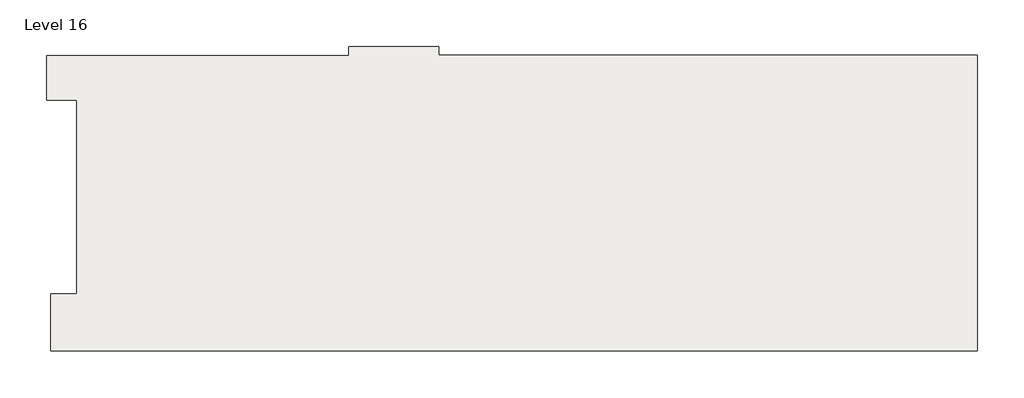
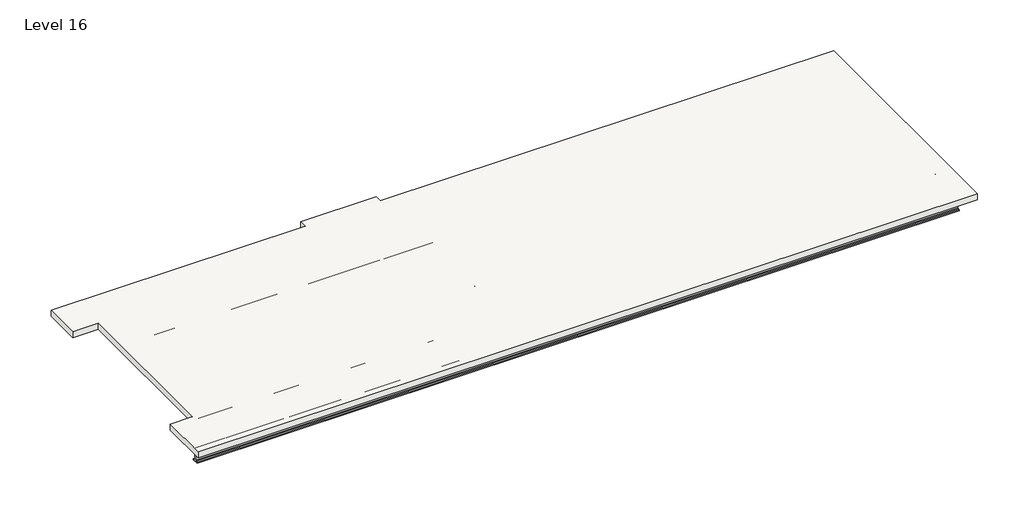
# One storey: 7 beams, 1 slab.
"""IFC4 building model written with IfcOpenShell, lengths in millimetres."""

import ifcopenshell
import ifcopenshell.guid

model = None  # the IFC model being written
_history = None  # IfcOwnerHistory: only IFC2X3 demands one
_inside = {}  # id of a spatial element -> (the spatial element, [elements in it])
_under = {}  # id of a project, library or spatial element -> (it, [spatial elements below it])
_declared = {}  # id of a project -> (the project, [libraries it declares])
_typed = {}  # id of a type object -> (the type object, [elements of that type])
_made_of = {}  # id of a material, layer set ... -> (it, [elements and type objects made of it])


def new_model(schema):
    """Start an empty IFC model of exactly this schema.

    Asked for "IFC4X3", IfcOpenShell would pick the latest addendum, in which some entities
    have other attributes; the version numbers below select the first issue.
    IFC2X3 requires an IfcOwnerHistory on every rooted entity: one is made here for all.
    """
    global model, _history
    if schema == "IFC4X3":
        model = ifcopenshell.file(schema_version=(4, 3, 0, 0))
    else:
        model = ifcopenshell.file(schema=schema)
    _inside.clear()
    _under.clear()
    _declared.clear()
    _typed.clear()
    _made_of.clear()
    _history = None
    if model.schema == "IFC2X3":
        org = make("IfcOrganization", Name="unknown")
        user = make(
            "IfcPersonAndOrganization",
            ThePerson=make("IfcPerson", FamilyName="unknown"),
            TheOrganization=org,
        )
        app = make(
            "IfcApplication",
            ApplicationDeveloper=org,
            Version="unknown",
            ApplicationFullName="unknown",
            ApplicationIdentifier="unknown",
        )
        _history = make(
            "IfcOwnerHistory",
            OwningUser=user,
            OwningApplication=app,
            ChangeAction="ADDED",
            CreationDate=0,
        )
    return model


def make(cls, **values):
    """One entity of the class cls with the attributes given. An attribute that is None is left unset."""
    return model.create_entity(
        cls, **{name: value for name, value in values.items() if value is not None}
    )


def rooted(cls, **values):
    """An entity with a GlobalId (a new one), such as an element, a storey or a relation."""
    return make(cls, GlobalId=ifcopenshell.guid.new(), OwnerHistory=_history, **values)


def si_unit(unit_type, name, prefix=None):
    """IfcSIUnit, for example si_unit("LENGTHUNIT", "METRE", prefix="MILLI")."""
    return make("IfcSIUnit", UnitType=unit_type, Prefix=prefix, Name=name)


def assignment(units):
    """IfcUnitAssignment: the units of a project."""
    return None if units is None else make("IfcUnitAssignment", Units=units)


def point(xyz):
    """IfcCartesianPoint."""
    return None if xyz is None else make("IfcCartesianPoint", Coordinates=xyz)


def direction(xyz):
    """IfcDirection."""
    return None if xyz is None else make("IfcDirection", DirectionRatios=xyz)


def frame(location, z_axis=None, x_axis=None):
    """IfcAxis2Placement3D, a coordinate frame: its origin and axes. An axis left out is left unset."""
    return make(
        "IfcAxis2Placement3D",
        Location=point(location),
        Axis=direction(z_axis),
        RefDirection=direction(x_axis),
    )


def frame_2d(location, x_axis=None):
    """IfcAxis2Placement2D, a coordinate frame in the plane: its origin and x axis."""
    return make(
        "IfcAxis2Placement2D", Location=point(location), RefDirection=direction(x_axis)
    )


def origin():
    """The frame at (0, 0, 0) with its axes left unset."""
    return frame((0.0, 0.0, 0.0))


def place(relative_to, where):
    """IfcLocalPlacement: puts the frame where relative to a parent placement (None: the world)."""
    return make(
        "IfcLocalPlacement", PlacementRelTo=relative_to, RelativePlacement=where
    )


def context(
    kind, dimensions, precision=None, world=None, true_north=None, identifier=None
):
    """IfcGeometricRepresentationContext, for example the 3D "Model" context."""
    return make(
        "IfcGeometricRepresentationContext",
        ContextIdentifier=identifier,
        ContextType=kind,
        CoordinateSpaceDimension=dimensions,
        Precision=precision,
        WorldCoordinateSystem=world,
        TrueNorth=true_north,
    )


def project(units=None, contexts=None):
    """IfcProject with its units and contexts."""
    return rooted(
        "IfcProject",
        Name="project",
        RepresentationContexts=contexts,
        UnitsInContext=assignment(units),
    )


def spatial(cls, under=None, at=None, **own):
    """A site, building, storey or space (cls), placed at a placement, below another one or the project."""
    s = rooted(cls, ObjectPlacement=at, **own)
    if under is not None:
        _under.setdefault(under.id(), (under, []))[1].append(s)
    return s


def polyline(points):
    """IfcPolyline through the points."""
    return make("IfcPolyline", Points=[point(p) for p in points])


def circle_curve(where, radius):
    """IfcCircle in the frame where."""
    return make("IfcCircle", Position=where, Radius=radius)


def trimmed(basis, trim1, trim2, sense, master):
    """IfcTrimmedCurve: the piece of a basis curve between two trims."""
    return make(
        "IfcTrimmedCurve",
        BasisCurve=basis,
        Trim1=trim1,
        Trim2=trim2,
        SenseAgreement=sense,
        MasterRepresentation=master,
    )


def segment(curve, same_sense, transition):
    """IfcCompositeCurveSegment."""
    return make(
        "IfcCompositeCurveSegment",
        Transition=transition,
        SameSense=same_sense,
        ParentCurve=curve,
    )


def composite_curve(segments, self_intersect=None):
    """IfcCompositeCurve: segments joined end to end."""
    return make("IfcCompositeCurve", Segments=segments, SelfIntersect=self_intersect)


def outline(outer, holes=None, kind="AREA"):
    """IfcArbitraryClosedProfileDef: a profile drawn as a closed curve; with holes, ...WithVoids."""
    if holes is None:
        return make("IfcArbitraryClosedProfileDef", ProfileType=kind, OuterCurve=outer)
    return make(
        "IfcArbitraryProfileDefWithVoids",
        ProfileType=kind,
        OuterCurve=outer,
        InnerCurves=holes,
    )


def extrude(swept, where, along, depth):
    """IfcExtrudedAreaSolid: the profile swept, set in the frame where, extruded along a direction by depth."""
    return make(
        "IfcExtrudedAreaSolid",
        SweptArea=swept,
        Position=where,
        ExtrudedDirection=direction(along),
        Depth=depth,
    )


def shape(context_of_items, identifier, shape_type, items):
    """IfcShapeRepresentation: the items that make up one representation, for example the "Body"."""
    return make(
        "IfcShapeRepresentation",
        ContextOfItems=context_of_items,
        RepresentationIdentifier=identifier,
        RepresentationType=shape_type,
        Items=items,
    )


def source(mapping_origin, context_of_items, identifier, shape_type, items):
    """IfcRepresentationMap: a shape defined once, which mapped items show again and again."""
    return make(
        "IfcRepresentationMap",
        MappingOrigin=mapping_origin,
        MappedRepresentation=shape(context_of_items, identifier, shape_type, items),
    )


def transform(
    local_origin,
    x_axis=None,
    y_axis=None,
    z_axis=None,
    scale=None,
    scale2=None,
    scale3=None,
    uniform=True,
):
    """IfcCartesianTransformationOperator3D, or its non-uniform kind. x_axis, y_axis, z_axis: its Axis1, 2, 3."""
    if uniform:
        return make(
            "IfcCartesianTransformationOperator3D",
            Axis1=direction(x_axis),
            Axis2=direction(y_axis),
            LocalOrigin=point(local_origin),
            Scale=scale,
            Axis3=direction(z_axis),
        )
    return make(
        "IfcCartesianTransformationOperator3DnonUniform",
        Axis1=direction(x_axis),
        Axis2=direction(y_axis),
        LocalOrigin=point(local_origin),
        Scale=scale,
        Axis3=direction(z_axis),
        Scale2=scale2,
        Scale3=scale3,
    )


def mapped(mapping_source, mapping_target):
    """IfcMappedItem: shows the shape of a source again, moved by a transform."""
    return make(
        "IfcMappedItem", MappingSource=mapping_source, MappingTarget=mapping_target
    )


def made_of(thing, what):
    """Note that an element or type object is made of a material, layer set ...; save() writes the relation."""
    if what is not None:
        _made_of.setdefault(what.id(), (what, []))[1].append(thing)
    return thing


def element(
    cls,
    number,
    at=None,
    inside=None,
    cuts=None,
    type_object=None,
    material=None,
    context=None,
    identifier="Body",
    shape_type=None,
    held_by="IfcProductDefinitionShape",
    body=None,
    shapes=None,
    **own,
):
    """One element of the class cls, such as IfcWall. Its Tag is "e" and its number.

    at: its placement. inside: the storey or other place that contains it. cuts: it is an
    opening in that element (IfcRelVoidsElement). A single representation is given by context,
    identifier, shape_type and body (its items); several are given by shapes. held_by: the class
    of the entity that holds the representations. save() writes the other relations.
    """
    e = rooted(cls, Tag="e%d" % number, ObjectPlacement=at, **own)
    if body is not None:
        shapes = [shape(context, identifier, shape_type, body)]
    if shapes is not None:
        e.Representation = make(held_by, Representations=shapes)
    if inside is not None:
        _inside.setdefault(inside.id(), (inside, []))[1].append(e)
    if cuts is not None:
        rooted(
            "IfcRelVoidsElement", RelatingBuildingElement=cuts, RelatedOpeningElement=e
        )
    if type_object is not None:
        _typed.setdefault(type_object.id(), (type_object, []))[1].append(e)
    return made_of(e, material)


def aggregate(whole, parts):
    """IfcRelAggregates: a whole, such as a stair, and the parts it consists of."""
    return rooted("IfcRelAggregates", RelatingObject=whole, RelatedObjects=parts)


def save(model, path):
    """Write the relations noted so far, then the file.

    IfcRelAggregates (storeys below a building ...), IfcRelContainedInSpatialStructure (elements
    in a storey), IfcRelDefinesByType, IfcRelAssociatesMaterial and IfcRelDeclares: one each for
    every whole, place, type object, material and project.
    """
    for whole, parts in _under.values():
        aggregate(whole, parts)
    for where, things in _inside.values():
        rooted(
            "IfcRelContainedInSpatialStructure",
            RelatedElements=things,
            RelatingStructure=where,
        )
    for kind, things in _typed.values():
        rooted("IfcRelDefinesByType", RelatedObjects=things, RelatingType=kind)
    for what, things in _made_of.values():
        rooted("IfcRelAssociatesMaterial", RelatedObjects=things, RelatingMaterial=what)
    for by, libraries in _declared.values():
        rooted("IfcRelDeclares", RelatingContext=by, RelatedDefinitions=libraries)
    model.write(path)


def ub_universal_beam_t_form_beam_cafdf109(model_context):
    return source(origin(), model_context, "Body", "SweptSolid", [
        extrude(outline(composite_curve([segment(polyline([(101.6, -190.5), (101.6, -241.3), (-101.6, -241.3), (-101.6, -190.5), (-63.5, -190.5)]), True, "CONTINUOUS"), segment(trimmed(circle_curve(frame_2d((-63.5, -165.1)), 25.4), [point((-63.5, -190.5))], [point((-38.1, -165.1))], True, "CARTESIAN"), True, "CONTINUOUS"), segment(polyline([(-38.1, -165.1), (-38.1, 165.1)]), True, "CONTINUOUS"), segment(trimmed(circle_curve(frame_2d((-63.5, 165.1)), 25.4), [point((-38.1, 165.1))], [point((-63.5, 190.5))], True, "CARTESIAN"), True, "CONTINUOUS"), segment(polyline([(-63.5, 190.5), (-101.6, 190.5), (-101.6, 241.3), (101.6, 241.3), (101.6, 190.5), (63.5, 190.5)]), True, "CONTINUOUS"), segment(trimmed(circle_curve(frame_2d((63.5, 165.1)), 25.4), [point((63.5, 190.5))], [point((38.1, 165.1))], True, "CARTESIAN"), True, "CONTINUOUS"), segment(polyline([(38.1, 165.1), (38.1, -165.1)]), True, "CONTINUOUS"), segment(trimmed(circle_curve(frame_2d((63.5, -165.1)), 25.4), [point((38.1, -165.1))], [point((63.5, -190.5))], True, "CARTESIAN"), True, "CONTINUOUS"), segment(polyline([(63.5, -190.5), (101.6, -190.5)]), True, "CONTINUOUS")], self_intersect=False)), frame((-17519.7697067, 0.0, 0.0), z_axis=(1.0, 0.0, 0.0), x_axis=(0.0, 1.0, 0.0)), (0.0, 0.0, 1.0), 35039.5394134),
    ])


def ub_universal_beam_t_form_beam_0052a870(model_context):
    return source(origin(), model_context, "Body", "SweptSolid", [
        extrude(outline(composite_curve([segment(polyline([(101.6, -190.5), (101.6, -241.3), (-101.6, -241.3), (-101.6, -190.5), (-63.5, -190.5)]), True, "CONTINUOUS"), segment(trimmed(circle_curve(frame_2d((-63.5, -165.1)), 25.4), [point((-63.5, -190.5))], [point((-38.1, -165.1))], True, "CARTESIAN"), True, "CONTINUOUS"), segment(polyline([(-38.1, -165.1), (-38.1, 165.1)]), True, "CONTINUOUS"), segment(trimmed(circle_curve(frame_2d((-63.5, 165.1)), 25.4), [point((-38.1, 165.1))], [point((-63.5, 190.5))], True, "CARTESIAN"), True, "CONTINUOUS"), segment(polyline([(-63.5, 190.5), (-101.6, 190.5), (-101.6, 241.3), (101.6, 241.3), (101.6, 190.5), (63.5, 190.5)]), True, "CONTINUOUS"), segment(trimmed(circle_curve(frame_2d((63.5, 165.1)), 25.4), [point((63.5, 190.5))], [point((38.1, 165.1))], True, "CARTESIAN"), True, "CONTINUOUS"), segment(polyline([(38.1, 165.1), (38.1, -165.1)]), True, "CONTINUOUS"), segment(trimmed(circle_curve(frame_2d((63.5, -165.1)), 25.4), [point((38.1, -165.1))], [point((63.5, -190.5))], True, "CARTESIAN"), True, "CONTINUOUS"), segment(polyline([(63.5, -190.5), (101.6, -190.5)]), True, "CONTINUOUS")], self_intersect=False)), frame((-5080.8126034, 0.0, 0.0), z_axis=(1.0, 0.0, 0.0), x_axis=(0.0, 1.0, 0.0)), (0.0, 0.0, 1.0), 10783.0876034),
    ])


def ub_universal_beam_t_form_beam_dafdc614(model_context):
    return source(origin(), model_context, "Body", "SweptSolid", [
        extrude(outline(composite_curve([segment(polyline([(101.6, -190.5), (101.6, -241.3), (-101.6, -241.3), (-101.6, -190.5), (-63.5, -190.5)]), True, "CONTINUOUS"), segment(trimmed(circle_curve(frame_2d((-63.5, -165.1)), 25.4), [point((-63.5, -190.5))], [point((-38.1, -165.1))], True, "CARTESIAN"), True, "CONTINUOUS"), segment(polyline([(-38.1, -165.1), (-38.1, 165.1)]), True, "CONTINUOUS"), segment(trimmed(circle_curve(frame_2d((-63.5, 165.1)), 25.4), [point((-38.1, 165.1))], [point((-63.5, 190.5))], True, "CARTESIAN"), True, "CONTINUOUS"), segment(polyline([(-63.5, 190.5), (-101.6, 190.5), (-101.6, 241.3), (101.6, 241.3), (101.6, 190.5), (63.5, 190.5)]), True, "CONTINUOUS"), segment(trimmed(circle_curve(frame_2d((63.5, 165.1)), 25.4), [point((63.5, 190.5))], [point((38.1, 165.1))], True, "CARTESIAN"), True, "CONTINUOUS"), segment(polyline([(38.1, 165.1), (38.1, -165.1)]), True, "CONTINUOUS"), segment(trimmed(circle_curve(frame_2d((63.5, -165.1)), 25.4), [point((38.1, -165.1))], [point((63.5, -190.5))], True, "CARTESIAN"), True, "CONTINUOUS"), segment(polyline([(63.5, -190.5), (101.6, -190.5)]), True, "CONTINUOUS")], self_intersect=False)), frame((-7267.575, 0.0, 0.0), z_axis=(1.0, 0.0, 0.0), x_axis=(0.0, 1.0, 0.0)), (0.0, 0.0, 1.0), 14624.05),
    ])


def ub_universal_beam_t_form_beam_e655866b(model_context):
    return source(origin(), model_context, "Body", "SweptSolid", [
        extrude(outline(composite_curve([segment(polyline([(101.6, -190.5), (101.6, -241.3), (-101.6, -241.3), (-101.6, -190.5), (-63.5, -190.5)]), True, "CONTINUOUS"), segment(trimmed(circle_curve(frame_2d((-63.5, -165.1)), 25.4), [point((-63.5, -190.5))], [point((-38.1, -165.1))], True, "CARTESIAN"), True, "CONTINUOUS"), segment(polyline([(-38.1, -165.1), (-38.1, 165.1)]), True, "CONTINUOUS"), segment(trimmed(circle_curve(frame_2d((-63.5, 165.1)), 25.4), [point((-38.1, 165.1))], [point((-63.5, 190.5))], True, "CARTESIAN"), True, "CONTINUOUS"), segment(polyline([(-63.5, 190.5), (-101.6, 190.5), (-101.6, 241.3), (101.6, 241.3), (101.6, 190.5), (63.5, 190.5)]), True, "CONTINUOUS"), segment(trimmed(circle_curve(frame_2d((63.5, 165.1)), 25.4), [point((63.5, 190.5))], [point((38.1, 165.1))], True, "CARTESIAN"), True, "CONTINUOUS"), segment(polyline([(38.1, 165.1), (38.1, -165.1)]), True, "CONTINUOUS"), segment(trimmed(circle_curve(frame_2d((63.5, -165.1)), 25.4), [point((38.1, -165.1))], [point((63.5, -190.5))], True, "CARTESIAN"), True, "CONTINUOUS"), segment(polyline([(63.5, -190.5), (101.6, -190.5)]), True, "CONTINUOUS")], self_intersect=False)), frame((-7165.975, 0.0, 0.0), z_axis=(1.0, 0.0, 0.0), x_axis=(0.0, 1.0, 0.0)), (0.0, 0.0, 1.0), 14624.0499994),
    ])


def ub_universal_beam_t_form_beam_2_892dd12f(model_context):
    return source(origin(), model_context, "Body", "SweptSolid", [
        extrude(outline(composite_curve([segment(polyline([(203.2, -228.6), (203.2, -304.8), (-203.2, -304.8), (-203.2, -228.6), (-139.7, -228.6)]), True, "CONTINUOUS"), segment(trimmed(circle_curve(frame_2d((-139.7, -127.0)), 101.6), [point((-139.7, -228.6))], [point((-38.1, -127.0))], True, "CARTESIAN"), True, "CONTINUOUS"), segment(polyline([(-38.1, -127.0), (-38.1, 127.0)]), True, "CONTINUOUS"), segment(trimmed(circle_curve(frame_2d((-139.7, 127.0)), 101.6), [point((-38.1, 127.0))], [point((-139.7, 228.6))], True, "CARTESIAN"), True, "CONTINUOUS"), segment(polyline([(-139.7, 228.6), (-203.2, 228.6), (-203.2, 304.8), (203.2, 304.8), (203.2, 228.6), (139.7, 228.6)]), True, "CONTINUOUS"), segment(trimmed(circle_curve(frame_2d((139.7, 127.0)), 101.6), [point((139.7, 228.6))], [point((38.1, 127.0))], True, "CARTESIAN"), True, "CONTINUOUS"), segment(polyline([(38.1, 127.0), (38.1, -127.0)]), True, "CONTINUOUS"), segment(trimmed(circle_curve(frame_2d((139.7, -127.0)), 101.6), [point((38.1, -127.0))], [point((139.7, -228.6))], True, "CARTESIAN"), True, "CONTINUOUS"), segment(polyline([(139.7, -228.6), (203.2, -228.6)]), True, "CONTINUOUS")], self_intersect=False)), frame((-1358.7331856, 0.0, 0.0), z_axis=(1.0, 0.0, 0.0), x_axis=(0.0, 1.0, 0.0)), (0.0, 0.0, 1.0), 2474.1876034),
    ])


def ub_universal_beam_t_form_beam_2_c3915af9(model_context):
    return source(origin(), model_context, "Body", "SweptSolid", [
        extrude(outline(composite_curve([segment(polyline([(203.2, -228.6), (203.2, -304.8), (-203.2, -304.8), (-203.2, -228.6), (-139.7, -228.6)]), True, "CONTINUOUS"), segment(trimmed(circle_curve(frame_2d((-139.7, -127.0)), 101.6), [point((-139.7, -228.6))], [point((-38.1, -127.0))], True, "CARTESIAN"), True, "CONTINUOUS"), segment(polyline([(-38.1, -127.0), (-38.1, 127.0)]), True, "CONTINUOUS"), segment(trimmed(circle_curve(frame_2d((-139.7, 127.0)), 101.6), [point((-38.1, 127.0))], [point((-139.7, 228.6))], True, "CARTESIAN"), True, "CONTINUOUS"), segment(polyline([(-139.7, 228.6), (-203.2, 228.6), (-203.2, 304.8), (203.2, 304.8), (203.2, 228.6), (139.7, 228.6)]), True, "CONTINUOUS"), segment(trimmed(circle_curve(frame_2d((139.7, 127.0)), 101.6), [point((139.7, 228.6))], [point((38.1, 127.0))], True, "CARTESIAN"), True, "CONTINUOUS"), segment(polyline([(38.1, 127.0), (38.1, -127.0)]), True, "CONTINUOUS"), segment(trimmed(circle_curve(frame_2d((139.7, -127.0)), 101.6), [point((38.1, -127.0))], [point((139.7, -228.6))], True, "CARTESIAN"), True, "CONTINUOUS"), segment(polyline([(139.7, -228.6), (203.2, -228.6)]), True, "CONTINUOUS")], self_intersect=False)), frame((-5481.4757277, 0.0, 0.0), z_axis=(1.0, 0.0, 0.0), x_axis=(0.0, 1.0, 0.0)), (0.0, 0.0, 1.0), 10747.7940545),
    ])


def ub_universal_beam_t_form_beam_3_ff705442(model_context):
    return source(origin(), model_context, "Body", "SweptSolid", [
        extrude(outline(composite_curve([segment(polyline([(152.4, -330.2), (152.4, -381.0), (-152.4, -381.0), (-152.4, -330.2), (-63.5, -330.2)]), True, "CONTINUOUS"), segment(trimmed(circle_curve(frame_2d((-63.5, -304.8)), 25.4), [point((-63.5, -330.2))], [point((-38.1, -304.8))], True, "CARTESIAN"), True, "CONTINUOUS"), segment(polyline([(-38.1, -304.8), (-38.1, 304.8)]), True, "CONTINUOUS"), segment(trimmed(circle_curve(frame_2d((-63.5, 304.8)), 25.4), [point((-38.1, 304.8))], [point((-63.5, 330.2))], True, "CARTESIAN"), True, "CONTINUOUS"), segment(polyline([(-63.5, 330.2), (-152.4, 330.2), (-152.4, 381.0), (152.4, 381.0), (152.4, 330.2), (63.5, 330.2)]), True, "CONTINUOUS"), segment(trimmed(circle_curve(frame_2d((63.5, 304.8)), 25.4), [point((63.5, 330.2))], [point((38.1, 304.8))], True, "CARTESIAN"), True, "CONTINUOUS"), segment(polyline([(38.1, 304.8), (38.1, -304.8)]), True, "CONTINUOUS"), segment(trimmed(circle_curve(frame_2d((63.5, -304.8)), 25.4), [point((38.1, -304.8))], [point((63.5, -330.2))], True, "CARTESIAN"), True, "CONTINUOUS"), segment(polyline([(63.5, -330.2), (152.4, -330.2)]), True, "CONTINUOUS")], self_intersect=False)), frame((-18678.0964447, 0.0, 0.0), z_axis=(1.0, 0.0, 0.0), x_axis=(0.0, 1.0, 0.0)), (0.0, 0.0, 1.0), 36197.8661514),
    ])


model = new_model("IFC4")

# Units and contexts
model_context = context("Model", 3, world=origin())
ifc_project = project(units=[si_unit("LENGTHUNIT", "METRE", prefix="MILLI")], contexts=[model_context])

# Site, building, storey
site = spatial("IfcSite", under=ifc_project)
building = spatial("IfcBuilding", under=site)
storey = spatial("IfcBuildingStorey", under=building, Name="Level 16", Elevation=55194.2)

# Beams
placement = place(None, origin())
ub_universal_beam_t_form_beam_shape = ub_universal_beam_t_form_beam_cafdf109(model_context)
element("IfcBeam", 1, ObjectType="UB-Universal Beam : T Form Beam", at=placement, inside=storey, context=model_context, shape_type="MappedRepresentation", body=[
    mapped(ub_universal_beam_t_form_beam_shape, transform((839.4887849, -4488.7440049, 54648.1), x_axis=(1.0, 0.0, 0.0), y_axis=(0.0, 1.0, 0.0), z_axis=(0.0, 0.0, 1.0))),
])
ub_universal_beam_t_form_beam_2_shape = ub_universal_beam_t_form_beam_0052a870(model_context)
element("IfcBeam", 2, ObjectType="UB-Universal Beam : T Form Beam", at=placement, inside=storey, context=model_context, shape_type="MappedRepresentation", body=[
    mapped(ub_universal_beam_t_form_beam_2_shape, transform((-1941.9309218, -1033.5314015, 54648.1), x_axis=(0.0, 1.0, 0.0), y_axis=(-1.0, 0.0, 0.0), z_axis=(0.0, 0.0, 1.0))),
])
ub_universal_beam_t_form_beam_3_shape = ub_universal_beam_t_form_beam_dafdc614(model_context)
element("IfcBeam", 3, ObjectType="UB-Universal Beam : T Form Beam", at=placement, inside=storey, context=model_context, shape_type="MappedRepresentation", body=[
    mapped(ub_universal_beam_t_form_beam_3_shape, transform((-9412.7059218, 1600.9059951, 54648.1), x_axis=(1.0, 0.0, 0.0), y_axis=(0.0, 1.0, 0.0), z_axis=(0.0, 0.0, 1.0))),
])
ub_universal_beam_t_form_beam_4_shape = ub_universal_beam_t_form_beam_e655866b(model_context)
element("IfcBeam", 4, ObjectType="UB-Universal Beam : T Form Beam", at=placement, inside=storey, context=model_context, shape_type="MappedRepresentation", body=[
    mapped(ub_universal_beam_t_form_beam_4_shape, transform((-9514.3059218, -1974.1440049, 54648.1), x_axis=(1.0, 0.0, 0.0), y_axis=(0.0, 1.0, 0.0), z_axis=(0.0, 0.0, 1.0))),
])
ub_universal_beam_t_form_beam_2_2_shape = ub_universal_beam_t_form_beam_2_892dd12f(model_context)
element("IfcBeam", 5, ObjectType="UB-Universal Beam : T Form Beam 2", at=placement, inside=storey, context=model_context, shape_type="MappedRepresentation", body=[
    mapped(ub_universal_beam_t_form_beam_2_2_shape, transform((198.0190782, -4755.6108193, 54584.6), x_axis=(0.0, 1.0, 0.0), y_axis=(-1.0, 0.0, 0.0), z_axis=(0.0, 0.0, 1.0))),
])
ub_universal_beam_t_form_beam_2_3_shape = ub_universal_beam_t_form_beam_2_c3915af9(model_context)
element("IfcBeam", 6, ObjectType="UB-Universal Beam : T Form Beam 2", at=placement, inside=storey, context=model_context, shape_type="MappedRepresentation", body=[
    mapped(ub_universal_beam_t_form_beam_2_3_shape, transform((-9053.9309218, -632.8682772, 54584.6), x_axis=(0.0, 1.0, 0.0), y_axis=(-1.0, 0.0, 0.0), z_axis=(0.0, 0.0, 1.0))),
])
ub_universal_beam_t_form_beam_3_2_shape = ub_universal_beam_t_form_beam_3_ff705442(model_context)
element("IfcBeam", 7, ObjectType="UB-Universal Beam : T Form Beam 3", at=placement, inside=storey, context=model_context, shape_type="MappedRepresentation", body=[
    mapped(ub_universal_beam_t_form_beam_3_2_shape, transform((839.4887849, -6266.7440049, 54508.4), x_axis=(1.0, 0.0, 0.0), y_axis=(0.0, 1.0, 0.0), z_axis=(0.0, 0.0, 1.0))),
])

# Slab
element("IfcSlab", 8, ObjectType="Generic Struc- 12\"", at=placement, inside=storey, context=model_context, shape_type="SweptSolid", body=[
    extrude(outline(polyline([(-18314.87525, 4760.4500496), (-6249.87525, 4760.4500496), (-6249.87525, 5135.9081345), (-2659.1641198, 5135.9081345), (-2659.1641198, 4795.7435985), (18860.9084916, 4795.7435985), (18860.9084916, -7040.6064015), (-18143.4076598, -7040.6064015), (-18143.4076598, -4757.7011111), (-17112.0809218, -4757.7011111), (-17112.0809218, 2985.6250496), (-18314.87525, 2985.6250496), (-18314.87525, 4760.4500496)])), frame((0.0, 0.0, 54889.4), z_axis=(0.0, 0.0, 1.0), x_axis=(1.0, 0.0, 0.0)), (0.0, 0.0, 1.0), 304.8),
])

save(model, "model.ifc")
